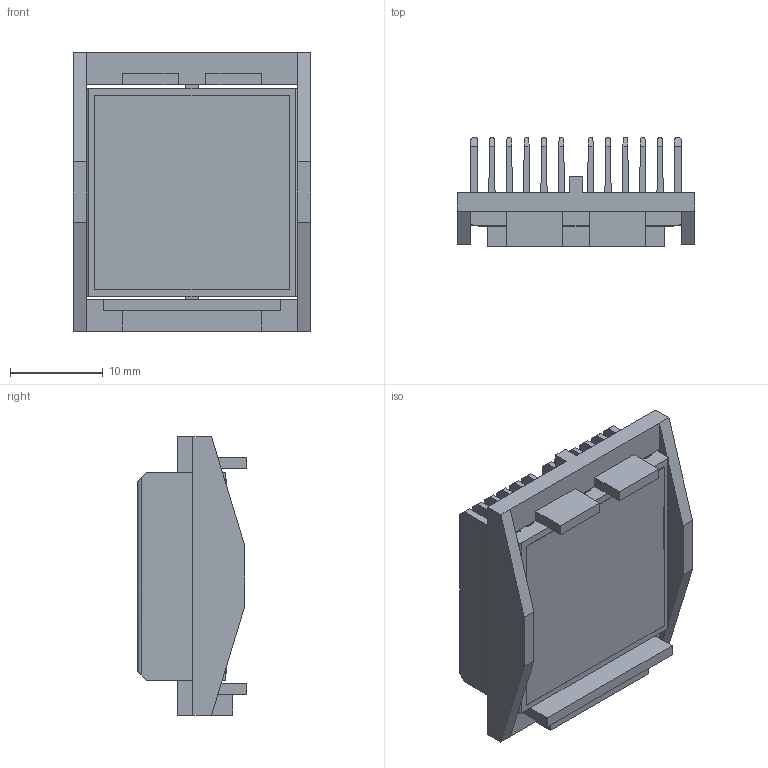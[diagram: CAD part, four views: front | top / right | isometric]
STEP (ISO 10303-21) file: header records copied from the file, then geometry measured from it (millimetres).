
FILE_DESCRIPTION (( 'STEP AP214' ), '1' );
FILE_NAME ('INL23001-10-1.7Y.STEP', '2023-02-21T17:21:54', ( '' ), ( '' ), 'SwSTEP 2.0', 'SolidWorks 2020', '' );
FILE_SCHEMA (( 'AUTOMOTIVE_DESIGN' ));
Length unit declared in the file: millimetre
Products named in the file (1): INL23001-10-1.7Y
Bounding box: 25.7 x 11.8 x 30.1 mm (x, y, z)
Volume: 3245.4 mm3; surface area: 7835.2 mm2
Topology: 3 solids, 3 shells, 152 faces, 440 edges, 292 vertices
Faces by surface type: plane 116, cylinder 36
Entity records: 6668 total; most frequent: CARTESIAN_POINT 957, ORIENTED_EDGE 880, DIRECTION 770, EDGE_CURVE 440, LINE 368, VECTOR 368, VERTEX_POINT 292, AXIS2_PLACEMENT_3D 201
